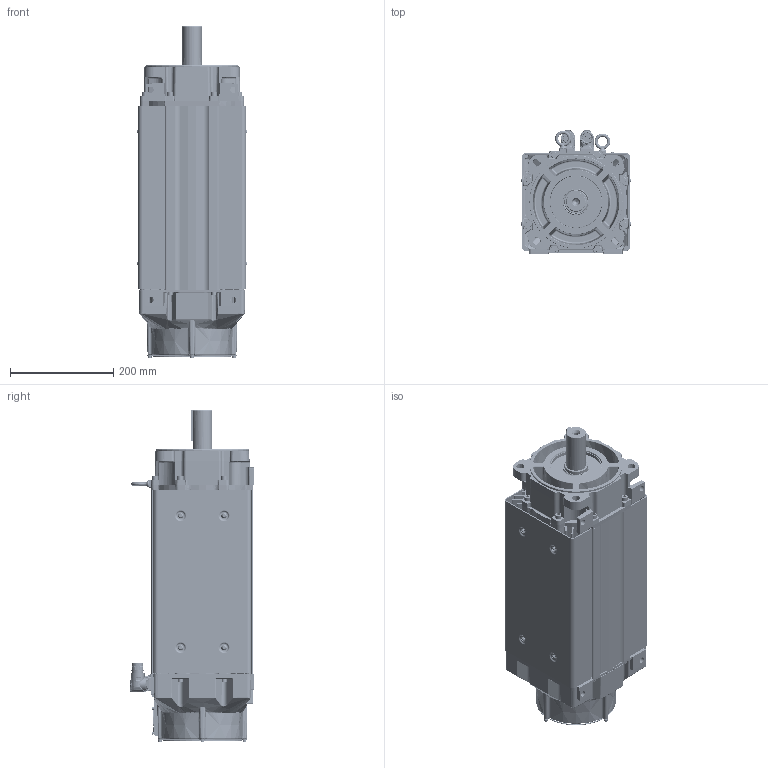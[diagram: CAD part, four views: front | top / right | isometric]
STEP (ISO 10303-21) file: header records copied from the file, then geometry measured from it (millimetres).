
FILE_DESCRIPTION((''),'2;1');
FILE_NAME('VPC-B21549-SJ74FX_ASM','2016-09-27T',('SRGaddam'),('Rockwell Automation'),'PRO/ENGINEER BY PARAMETRIC TECHNOLOGY CORPORATION, 2012480','PRO/ENGINEER BY PARAMETRIC TECHNOLOGY CORPORATION, 2012480','');
FILE_SCHEMA(('CONFIG_CONTROL_DESIGN'));
Products named in the file (46): 10001238886_AF0; 10001298482_AF22; 10001284445_ASM; CH31X150; 10001371613; 10000569218; 10001416323; 10001587021; 10001257630_AF285; 10001300098_AF257; 10001314842_ASM; 10001289764; 10002069468; 10001935397; 10001713570; 10001713572_ASM; 91290A150BR; 10001289776; CH4X050; 10001587458; 91290A115; 10001336508; 10001409703; 10001299929; 10001284567; 10001518963; 91290A148BR; 10001587431; 91290A139BR; 10000231113; 10001289808_ASM; 10001609981; 0002-5005; 10001586886; 10001369859; 0011-2066; 142413_923; PRT0001_923; 142413-1_923_ASM; 10000172464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
Assembly tree (88 placements, depth 4):
  VPC-B21549-SJ74FX_ASM
    10001284445_ASM
      10001238886_AF0
      10001298482_AF22
    CH31X150  x8
    10001371613
    10000569218
    10001416323  x2
    10001587021  x8
    10001314842_ASM
      10001257630_AF285
      10001300098_AF257
    10001289808_ASM
      10001289764
      10002069468
      10001713572_ASM
        10001935397
        10001713570
      91290A150BR  x4
      10001289776
      CH4X050  x2
      10001587458
      91290A115  x5
      10001336508
      10001409703
      10001299929
      10001284567
      10001518963
      91290A148BR  x8
      10001587431
      91290A139BR
      10000231113
    10001609981
    0002-5005  x2
    10001586886  x6
    10001369859
    0011-2066
    M923_ASM
      142413-1_923_ASM
        142413_923
        PRT0001_923
      10000172464  x4
    M623_ASM
      142414-1_623_ASM
        142414_623
        135798_623
      10000172464  x4
Bounding box: 210.91 x 240 x 641.61 mm (x, y, z)
Volume: 6120578.1 mm3; surface area: 1967853 mm2
Topology: 89 solids, 89 shells, 7423 faces, 17842 edges, 10904 vertices
Faces by surface type: plane 2149, cylinder 2057, bspline 1385, cone 955, torus 697, sphere 148, revolution 30, extrusion 2
Entity records: 249034 total; most frequent: CARTESIAN_POINT 114736, ORIENTED_EDGE 29108, DIRECTION 26142, EDGE_CURVE 14554, AXIS2_PLACEMENT_3D 10328, VERTEX_POINT 9029, EDGE_LOOP 6531, FACE_OUTER_BOUND 5976
